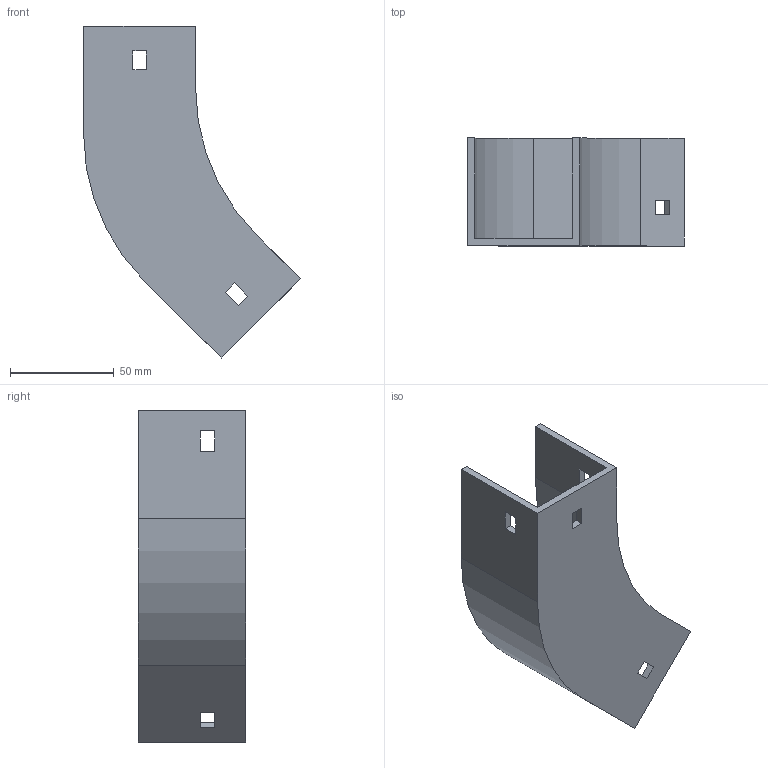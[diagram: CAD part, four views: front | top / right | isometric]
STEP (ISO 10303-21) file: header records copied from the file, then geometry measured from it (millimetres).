
FILE_DESCRIPTION (( 'STEP AP214' ), '1' );
FILE_NAME ('11F1B050.step', '2025-02-21T12:55:20', ( '' ), ( '' ), 'SwSTEP 2.0', 'SolidWorks 2023', '' );
FILE_SCHEMA (( 'AUTOMOTIVE_DESIGN' ));
Length unit declared in the file: millimetre
Products named in the file (1): 11F1B050
Bounding box: 104.5 x 52 x 160.11 mm (x, y, z)
Volume: 84463.3 mm3; surface area: 51141.1 mm2
Topology: 1 solids, 1 shells, 42 faces, 120 edges, 80 vertices
Faces by surface type: plane 38, cylinder 4
Entity records: 1399 total; most frequent: CARTESIAN_POINT 243, ORIENTED_EDGE 240, DIRECTION 214, EDGE_CURVE 120, LINE 112, VECTOR 112, VERTEX_POINT 80, EDGE_LOOP 54
